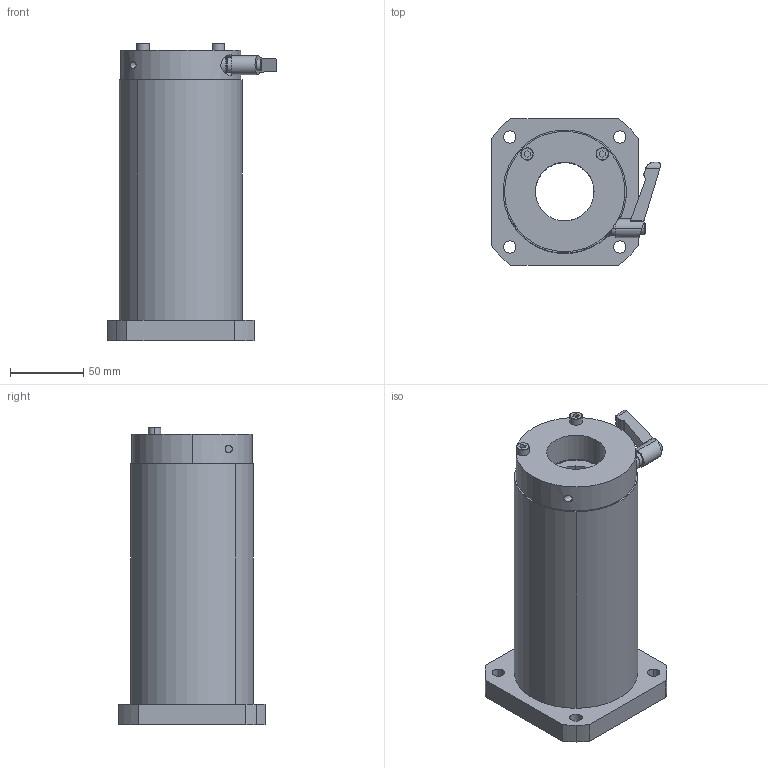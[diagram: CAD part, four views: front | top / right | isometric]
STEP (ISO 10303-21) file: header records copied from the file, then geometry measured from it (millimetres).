
FILE_DESCRIPTION (( 'STEP AP214' ), '1' );
FILE_NAME ('LFWK40MF-C.STEP', '2023-06-27T02:57:25', ( '' ), ( '' ), 'SwSTEP 2.0', 'SolidWorks 2019', '' );
FILE_SCHEMA (( 'AUTOMOTIVE_DESIGN' ));
Length unit declared in the file: millimetre
Products named in the file (3): LFWK40MF-C; “ÁSCK4020CO-S5.5; LFWK40MF
Assembly tree (2 placements, depth 2):
  LFWK40MF-C
    LFWK40MF
    “ÁSCK4020CO-S5.5
Bounding box: 115.4 x 100 x 203 mm (x, y, z)
Volume: 886208.6 mm3; surface area: 116978.3 mm2
Topology: 4 solids, 6 shells, 172 faces, 434 edges, 276 vertices
Faces by surface type: cylinder 73, plane 64, bspline 16, cone 11, torus 8
Entity records: 7443 total; most frequent: CARTESIAN_POINT 1414, DIRECTION 951, ORIENTED_EDGE 868, EDGE_CURVE 434, AXIS2_PLACEMENT_3D 387, VERTEX_POINT 276, CIRCLE 226, EDGE_LOOP 208
